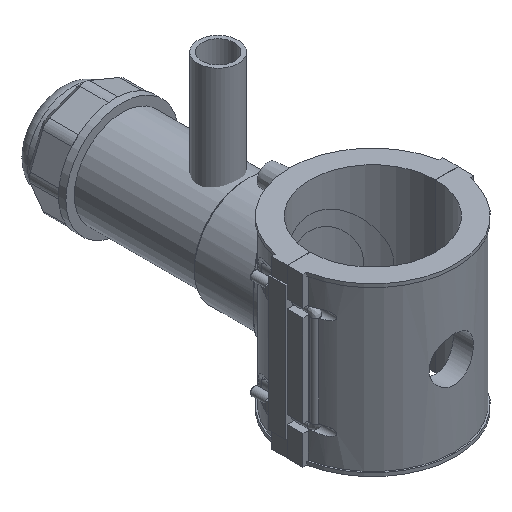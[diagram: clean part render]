
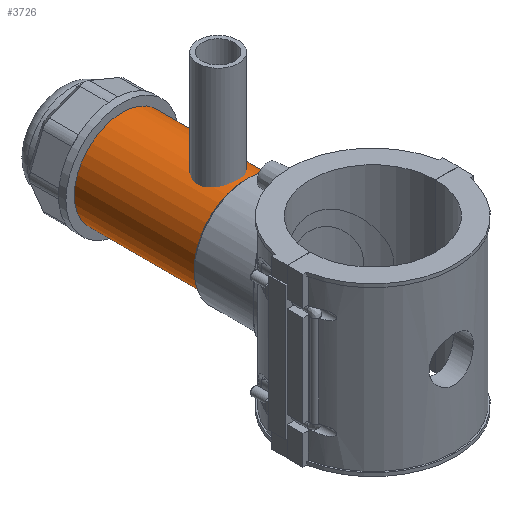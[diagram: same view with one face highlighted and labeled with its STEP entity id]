
A CAD part, isometric view. The second image highlights one B-rep face of the part: STEP entity #3726.
In plain terms, the highlighted cylindrical face has radius 33.928 mm (diameter 67.856 mm), a full revolution.
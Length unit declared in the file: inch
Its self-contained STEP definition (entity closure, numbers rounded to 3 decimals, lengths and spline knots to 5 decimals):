
#317=CIRCLE('',#4055,1.33574);
#318=CIRCLE('',#4056,1.33574);
#333=CIRCLE('',#4087,1.33574);
#334=CIRCLE('',#4088,1.33574);
#548=FACE_OUTER_BOUND('',#774,.T.);
#774=EDGE_LOOP('',(#3440,#3441,#3442,#3443,#3444,#3445));
#1100=LINE('',#7836,#1420);
#1420=VECTOR('',#5091,1.33574);
#1818=VERTEX_POINT('',#7770);
#1819=VERTEX_POINT('',#7771);
#1835=VERTEX_POINT('',#7832);
#1836=VERTEX_POINT('',#7833);
#2345=EDGE_CURVE('',#1818,#1819,#317,.T.);
#2346=EDGE_CURVE('',#1819,#1818,#318,.T.);
#2374=EDGE_CURVE('',#1835,#1836,#333,.T.);
#2375=EDGE_CURVE('',#1836,#1835,#334,.T.);
#2376=EDGE_CURVE('',#1836,#1819,#1100,.T.);
#3440=ORIENTED_EDGE('',*,*,#2374,.F.);
#3441=ORIENTED_EDGE('',*,*,#2375,.F.);
#3442=ORIENTED_EDGE('',*,*,#2376,.T.);
#3443=ORIENTED_EDGE('',*,*,#2346,.T.);
#3444=ORIENTED_EDGE('',*,*,#2345,.T.);
#3445=ORIENTED_EDGE('',*,*,#2376,.F.);
#3525=CYLINDRICAL_SURFACE('',#4086,1.33574);
#3726=ADVANCED_FACE('',(#548),#3525,.T.);
#4055=AXIS2_PLACEMENT_3D('',#7772,#5010,#5011);
#4056=AXIS2_PLACEMENT_3D('',#7773,#5012,#5013);
#4086=AXIS2_PLACEMENT_3D('',#7831,#5085,#5086);
#4087=AXIS2_PLACEMENT_3D('',#7834,#5087,#5088);
#4088=AXIS2_PLACEMENT_3D('',#7835,#5089,#5090);
#5010=DIRECTION('center_axis',(0.,1.,0.));
#5011=DIRECTION('ref_axis',(1.,0.,0.));
#5012=DIRECTION('center_axis',(0.,1.,0.));
#5013=DIRECTION('ref_axis',(1.,0.,0.));
#5085=DIRECTION('center_axis',(0.,1.,0.));
#5086=DIRECTION('ref_axis',(0.,0.,1.));
#5087=DIRECTION('center_axis',(0.,1.,0.));
#5088=DIRECTION('ref_axis',(1.,0.,0.));
#5089=DIRECTION('center_axis',(0.,1.,0.));
#5090=DIRECTION('ref_axis',(1.,0.,0.));
#5091=DIRECTION('',(0.,-1.,0.));
#7770=CARTESIAN_POINT('',(0.,3.54603,1.33574));
#7771=CARTESIAN_POINT('',(0.,3.54603,-1.33574));
#7772=CARTESIAN_POINT('Origin',(0.,3.54603,0.));
#7773=CARTESIAN_POINT('Origin',(0.,3.54603,0.));
#7831=CARTESIAN_POINT('Origin',(0.,5.2598,0.));
#7832=CARTESIAN_POINT('',(0.,6.97356,1.33574));
#7833=CARTESIAN_POINT('',(0.,6.97356,-1.33574));
#7834=CARTESIAN_POINT('Origin',(0.,6.97356,0.));
#7835=CARTESIAN_POINT('Origin',(0.,6.97356,0.));
#7836=CARTESIAN_POINT('',(0.,5.2598,-1.33574));
